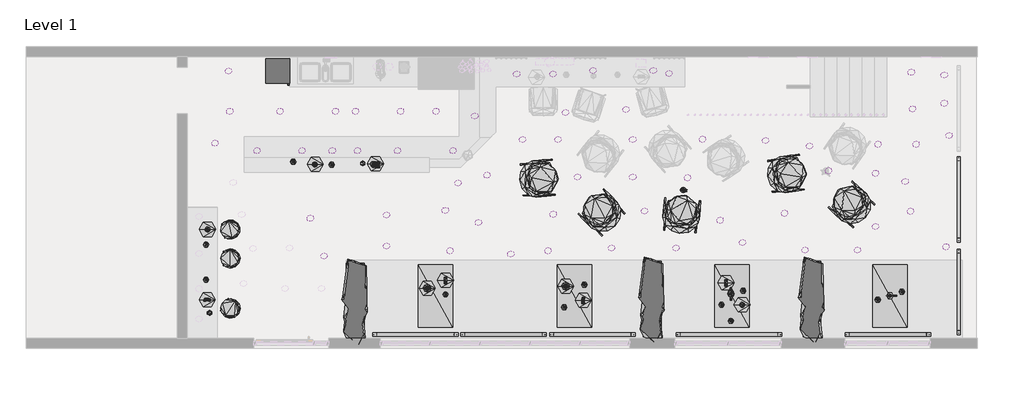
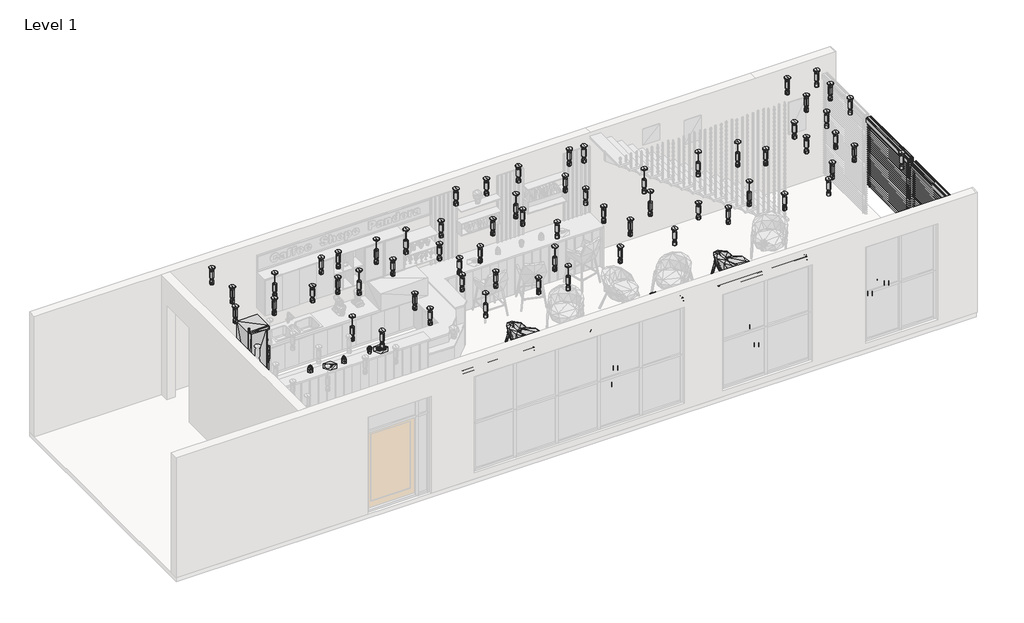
# One storey, part 2 of 12: 64 light fixtures, 54 geographic elements, 7 proxies.
"""IFC4 building model written with IfcOpenShell, lengths in millimetres."""

from ifc_helpers import new_model, si_unit, origin, place, context, project, spatial, transform, mapped, element, save
from components import generic_models_4dfa0e88, generic_models_0d125391, generic_models_69a6ee1e, generic_models_c7dcbf66, generic_models_453052fa, geographic_element_7c6608a7, geographic_element_d1b7c6a5, geographic_element_4494242b, geographic_element_1264376e, geographic_element_9d12d4a3, geographic_element_bb1f53bf, geographic_element_d340176e, enscape_assetdefinition_coffee_maker_03_enscape_4d109c25, enscape_assetdefinition_high_stool_08_enscape_40338ee3, enscape_assetdefinition_lounge_armchair_12_enscape_3d8580c7, enscape_assetdefinition_napkin_folded_enscape_c1d7dbe0, enscape_assetdefinition_plate_flat_enscape_assetdefinition_addf1cdb, enscape_assetdefinition_red_cocktail_enscape_assetdefinition_719ef9fb, enscape_assetdefinition_refrigerator_03_enscape_10d53833, enscape_assetdefinition_side_table_09_enscape_f6d087d9, light_fixture_a07fdb93, light_fixture_9dd68e13

model = new_model("IFC4")

# Units and contexts
model_context = context("Model", 3, world=origin())
ifc_project = project(units=[si_unit("LENGTHUNIT", "METRE", prefix="MILLI")], contexts=[model_context])

# Site, building, storey
site = spatial("IfcSite", under=ifc_project)
building = spatial("IfcBuilding", under=site)
storey = spatial("IfcBuildingStorey", under=building, Name="Level 1", Elevation=0.0)

# Proxies
placement = place(None, origin())
generic_models_shape = generic_models_4dfa0e88(model_context)
generic_models_2_shape = generic_models_0d125391(model_context)
element("IfcBuildingElementProxy", 1, Name="Windows-Blinds Schenker Stores Stores a lamelles Economy EC 70 : Windows-Blinds Schenker Stores Stores a lamelles Economy EC 70", ObjectType="Windows-Blinds Schenker Stores Stores a lamelles Economy EC 70 : Windows-Blinds Schenker Stores Stores a lamelles Economy EC 70", at=placement, inside=storey, context=model_context, shape_type="MappedRepresentation", body=[
    mapped(generic_models_shape, transform((14205.6769044, -2380.239109, 200.0), x_axis=(0.0, 1.0, 0.0), y_axis=(-1.0, 0.0, 0.0), z_axis=(0.0, 0.0, 1.0))),
    mapped(generic_models_2_shape, transform((14205.6769044, -2380.239109, 200.0), x_axis=(0.0, 1.0, 0.0), y_axis=(-1.0, 0.0, 0.0), z_axis=(0.0, 0.0, 1.0))),
])
element("IfcBuildingElementProxy", 2, Name="Windows-Blinds Schenker Stores Stores a lamelles Economy EC 70 : Windows-Blinds Schenker Stores Stores a lamelles Economy EC 70", ObjectType="Windows-Blinds Schenker Stores Stores a lamelles Economy EC 70 : Windows-Blinds Schenker Stores Stores a lamelles Economy EC 70", at=placement, inside=storey, context=model_context, shape_type="MappedRepresentation", body=[
    mapped(generic_models_shape, transform((3450.6769044, -3175.2400684, 200.0), x_axis=(1.0, 0.0, 0.0), y_axis=(0.0, 1.0, 0.0), z_axis=(0.0, 0.0, 1.0))),
    mapped(generic_models_2_shape, transform((3450.6769044, -3175.2400684, 200.0), x_axis=(1.0, 0.0, 0.0), y_axis=(0.0, 1.0, 0.0), z_axis=(0.0, 0.0, 1.0))),
])
element("IfcBuildingElementProxy", 3, Name="Windows-Blinds Schenker Stores Stores a lamelles Economy EC 70 : Windows-Blinds Schenker Stores Stores a lamelles Economy EC 70", ObjectType="Windows-Blinds Schenker Stores Stores a lamelles Economy EC 70 : Windows-Blinds Schenker Stores Stores a lamelles Economy EC 70", at=placement, inside=storey, context=model_context, shape_type="MappedRepresentation", body=[
    mapped(generic_models_shape, transform((6970.6769044, -3175.2400684, 200.0), x_axis=(1.0, 0.0, 0.0), y_axis=(0.0, 1.0, 0.0), z_axis=(0.0, 0.0, 1.0))),
    mapped(generic_models_2_shape, transform((6970.6769044, -3175.2400684, 200.0), x_axis=(1.0, 0.0, 0.0), y_axis=(0.0, 1.0, 0.0), z_axis=(0.0, 0.0, 1.0))),
])
generic_models_3_shape = generic_models_69a6ee1e(model_context)
generic_models_4_shape = generic_models_c7dcbf66(model_context)
element("IfcBuildingElementProxy", 4, Name="Windows-Blinds Schenker Stores Stores a lamelles Economy EC 70 : Windows-Blinds Schenker Stores Stores a lamelles Economy EC 75", ObjectType="Windows-Blinds Schenker Stores Stores a lamelles Economy EC 70 : Windows-Blinds Schenker Stores Stores a lamelles Economy EC 75", at=placement, inside=storey, context=model_context, shape_type="MappedRepresentation", body=[
    mapped(generic_models_3_shape, transform((9690.6769044, -3175.2400684, 200.0), x_axis=(1.0, 0.0, 0.0), y_axis=(0.0, 1.0, 0.0), z_axis=(0.0, 0.0, 1.0))),
    mapped(generic_models_4_shape, transform((9690.6769044, -3175.2400684, 200.0), x_axis=(1.0, 0.0, 0.0), y_axis=(0.0, 1.0, 0.0), z_axis=(0.0, 0.0, 1.0))),
])
generic_models_5_shape = generic_models_453052fa(model_context)
element("IfcBuildingElementProxy", 5, Name="Windows-Blinds Schenker Stores Stores a lamelles Economy EC 70 : Windows-Blinds Schenker Stores Stores a lamelles Economy EC 76", ObjectType="Windows-Blinds Schenker Stores Stores a lamelles Economy EC 70 : Windows-Blinds Schenker Stores Stores a lamelles Economy EC 76", at=placement, inside=storey, context=model_context, shape_type="MappedRepresentation", body=[
    mapped(generic_models_5_shape, transform((14205.6769044, -540.239109, 1000.0), x_axis=(0.0, 1.0, 0.0), y_axis=(-1.0, 0.0, 0.0), z_axis=(0.0, 0.0, 1.0))),
])
element("IfcBuildingElementProxy", 6, Name="Windows-Blinds Schenker Stores Stores a lamelles Economy EC 70 : Windows-Blinds Schenker Stores Stores a lamelles Economy EC 76", ObjectType="Windows-Blinds Schenker Stores Stores a lamelles Economy EC 70 : Windows-Blinds Schenker Stores Stores a lamelles Economy EC 76", at=placement, inside=storey, context=model_context, shape_type="MappedRepresentation", body=[
    mapped(generic_models_5_shape, transform((12850.6769044, -3175.2400684, 1000.0), x_axis=(1.0, 0.0, 0.0), y_axis=(0.0, 1.0, 0.0), z_axis=(0.0, 0.0, 1.0))),
])
element("IfcBuildingElementProxy", 7, Name="Windows-Blinds Schenker Stores Stores a lamelles Economy EC 70 : Windows-Blinds Schenker Stores Stores a lamelles Economy EC 76", ObjectType="Windows-Blinds Schenker Stores Stores a lamelles Economy EC 70 : Windows-Blinds Schenker Stores Stores a lamelles Economy EC 76", at=placement, inside=storey, context=model_context, shape_type="MappedRepresentation", body=[
    mapped(generic_models_5_shape, transform((5205.4769044, -3175.2400684, 1000.0), x_axis=(1.0, 0.0, 0.0), y_axis=(0.0, 1.0, 0.0), z_axis=(0.0, 0.0, 1.0))),
])

# Geographic elements
geographic_element_shape = geographic_element_7c6608a7(model_context)
element("IfcGeographicElement", 8, ObjectType="Enscape AssetDefinition - Strawberry Cake : Enscape AssetDefinition - Strawberry Cake", at=placement, inside=storey, context=model_context, shape_type="MappedRepresentation", body=[
    mapped(geographic_element_shape, transform((3686.5683064, -2309.5885025, 565.0), x_axis=(1.0, 0.0, 0.0), y_axis=(0.0, 1.0, 0.0), z_axis=(0.0, 0.0, 1.0))),
])
element("IfcGeographicElement", 9, ObjectType="Enscape AssetDefinition - Strawberry Cake : Enscape AssetDefinition - Strawberry Cake", at=placement, inside=storey, context=model_context, shape_type="MappedRepresentation", body=[
    mapped(geographic_element_shape, transform((6441.3683064, -2269.5885025, 565.0), x_axis=(1.0, 0.0, 0.0), y_axis=(0.0, 1.0, 0.0), z_axis=(0.0, 0.0, 1.0))),
])
geographic_element_2_shape = geographic_element_d1b7c6a5(model_context)
element("IfcGeographicElement", 10, ObjectType="Enscape AssetDefinition - Teapot : Enscape AssetDefinition - Teapot", at=placement, inside=storey, context=model_context, shape_type="MappedRepresentation", body=[
    mapped(geographic_element_2_shape, transform((9728.4361306, -2420.239109, 550.0), x_axis=(0.0, 1.0, 0.0), y_axis=(-1.0, 0.0, 0.0), z_axis=(0.0, 0.0, 1.0))),
])
geographic_element_3_shape = geographic_element_4494242b(model_context)
element("IfcGeographicElement", 11, ObjectType="Enscape AssetDefinition - Papercup, Big : Enscape AssetDefinition - Papercup, Big", at=placement, inside=storey, context=model_context, shape_type="MappedRepresentation", body=[
    mapped(geographic_element_3_shape, transform((2402.8496284, 176.7839731, 1040.0), x_axis=(1.0, 0.0, 0.0), y_axis=(0.0, 1.0, 0.0), z_axis=(0.0, 0.0, 1.0))),
])
element("IfcGeographicElement", 12, ObjectType="Enscape AssetDefinition - Papercup, Big : Enscape AssetDefinition - Papercup, Big", at=placement, inside=storey, context=model_context, shape_type="MappedRepresentation", body=[
    mapped(geographic_element_3_shape, transform((-644.6394575, -2800.239109, 920.0), x_axis=(1.0, 0.0, 0.0), y_axis=(0.0, 1.0, 0.0), z_axis=(0.0, 0.0, 1.0))),
])
geographic_element_4_shape = geographic_element_1264376e(model_context)
element("IfcGeographicElement", 13, ObjectType="Enscape AssetDefinition - Pastry : Enscape AssetDefinition - Pastry", at=placement, inside=storey, context=model_context, shape_type="MappedRepresentation", body=[
    mapped(geographic_element_4_shape, transform((2630.9318657, 151.2754432, 1055.0), x_axis=(1.0, 0.0, 0.0), y_axis=(0.0, 1.0, 0.0), z_axis=(0.0, 0.0, 1.0))),
])
geographic_element_5_shape = geographic_element_9d12d4a3(model_context)
element("IfcGeographicElement", 14, ObjectType="Enscape AssetDefinition - Pastry 05 : Enscape AssetDefinition - Pastry 05", at=placement, inside=storey, context=model_context, shape_type="MappedRepresentation", body=[
    mapped(geographic_element_5_shape, transform((2711.2279841, 151.2754432, 1055.0), x_axis=(0.0, 1.0, 0.0), y_axis=(-1.0, 0.0, 0.0), z_axis=(0.0, 0.0, 1.0))),
])
element("IfcGeographicElement", 15, ObjectType="Enscape AssetDefinition - Pastry 05 : Enscape AssetDefinition - Pastry 05", at=placement, inside=storey, context=model_context, shape_type="MappedRepresentation", body=[
    mapped(geographic_element_5_shape, transform((-690.3004968, -2539.928149, 935.0), x_axis=(1.0, 0.0, 0.0), y_axis=(0.0, 1.0, 0.0), z_axis=(0.0, 0.0, 1.0))),
])
element("IfcGeographicElement", 16, ObjectType="Enscape AssetDefinition - Pastry 05 : Enscape AssetDefinition - Pastry 05", at=placement, inside=storey, context=model_context, shape_type="MappedRepresentation", body=[
    mapped(geographic_element_5_shape, transform((4050.6769044, -2150.239109, 565.0), x_axis=(0.0, 1.0, 0.0), y_axis=(-1.0, 0.0, 0.0), z_axis=(0.0, 0.0, 1.0))),
])
element("IfcGeographicElement", 17, ObjectType="Enscape AssetDefinition - Pastry 05 : Enscape AssetDefinition - Pastry 05", at=placement, inside=storey, context=model_context, shape_type="MappedRepresentation", body=[
    mapped(geographic_element_5_shape, transform((6790.6769044, -2550.239109, 565.0), x_axis=(0.0, 1.0, 0.0), y_axis=(-1.0, 0.0, 0.0), z_axis=(0.0, 0.0, 1.0))),
])
element("IfcGeographicElement", 18, ObjectType="Enscape AssetDefinition - Pastry 05 : Enscape AssetDefinition - Pastry 05", at=placement, inside=storey, context=model_context, shape_type="MappedRepresentation", body=[
    mapped(geographic_element_5_shape, transform((9630.6769044, -2200.239109, 565.0), x_axis=(0.0, 1.0, 0.0), y_axis=(-1.0, 0.0, 0.0), z_axis=(0.0, 0.0, 1.0))),
])
geographic_element_6_shape = geographic_element_bb1f53bf(model_context)
element("IfcGeographicElement", 19, ObjectType="Enscape AssetDefinition - Pastry 09 : Enscape AssetDefinition - Pastry 09", at=placement, inside=storey, context=model_context, shape_type="MappedRepresentation", body=[
    mapped(geographic_element_6_shape, transform((1447.1300429, 151.2754432, 1055.0), x_axis=(1.0, 0.0, 0.0), y_axis=(0.0, 1.0, 0.0), z_axis=(0.0, 0.0, 1.0))),
])
element("IfcGeographicElement", 20, ObjectType="Enscape AssetDefinition - Pastry 09 : Enscape AssetDefinition - Pastry 09", at=placement, inside=storey, context=model_context, shape_type="MappedRepresentation", body=[
    mapped(geographic_element_6_shape, transform((-684.6394575, -1140.239109, 935.0), x_axis=(1.0, 0.0, 0.0), y_axis=(0.0, 1.0, 0.0), z_axis=(0.0, 0.0, 1.0))),
])
element("IfcGeographicElement", 21, ObjectType="Enscape AssetDefinition - Pastry 09 : Enscape AssetDefinition - Pastry 09", at=placement, inside=storey, context=model_context, shape_type="MappedRepresentation", body=[
    mapped(geographic_element_6_shape, transform((9950.6769044, -2640.239109, 565.0), x_axis=(1.0, 0.0, 0.0), y_axis=(0.0, 1.0, 0.0), z_axis=(0.0, 0.0, 1.0))),
])
geographic_element_7_shape = geographic_element_d340176e(model_context)
element("IfcGeographicElement", 22, ObjectType="Enscape AssetDefinition - Snake Plant : Enscape AssetDefinition - Snake Plant", at=placement, inside=storey, context=model_context, shape_type="MappedRepresentation", body=[
    mapped(geographic_element_7_shape, transform((2253.7993478, -2560.239109, 150.0), x_axis=(1.0, 0.0, 0.0), y_axis=(0.0, 1.0, 0.0), z_axis=(0.0, 0.0, 1.0))),
])
element("IfcGeographicElement", 23, ObjectType="Enscape AssetDefinition - Snake Plant : Enscape AssetDefinition - Snake Plant", at=placement, inside=storey, context=model_context, shape_type="MappedRepresentation", body=[
    mapped(geographic_element_7_shape, transform((8160.6769044, -2520.239109, 150.0), x_axis=(1.0, 0.0, 0.0), y_axis=(0.0, 1.0, 0.0), z_axis=(0.0, 0.0, 1.0))),
])
element("IfcGeographicElement", 24, ObjectType="Enscape AssetDefinition - Snake Plant : Enscape AssetDefinition - Snake Plant", at=placement, inside=storey, context=model_context, shape_type="MappedRepresentation", body=[
    mapped(geographic_element_7_shape, transform((11340.8769044, -2520.239109, 150.0), x_axis=(1.0, 0.0, 0.0), y_axis=(0.0, 1.0, 0.0), z_axis=(0.0, 0.0, 1.0))),
])
enscape_assetdefinition_coffee_maker_03_enscape_shape = enscape_assetdefinition_coffee_maker_03_enscape_4d109c25(model_context)
element("IfcGeographicElement", 25, ObjectType="Enscape AssetDefinition - Coffee Maker 03 : Enscape AssetDefinition - Coffee Maker 03", at=placement, inside=storey, context=model_context, shape_type="MappedRepresentation", body=[
    mapped(enscape_assetdefinition_coffee_maker_03_enscape_shape, transform((12890.6568308, -2460.239109, 550.0), x_axis=(1.0, 0.0, 0.0), y_axis=(0.0, 1.0, 0.0), z_axis=(0.0, 0.0, 1.0))),
])
enscape_assetdefinition_high_stool_08_enscape_shape = enscape_assetdefinition_high_stool_08_enscape_40338ee3(model_context)
element("IfcGeographicElement", 26, ObjectType="Enscape AssetDefinition - High Stool 08 : Enscape AssetDefinition - High Stool 08", at=placement, inside=storey, context=model_context, shape_type="MappedRepresentation", body=[
    mapped(enscape_assetdefinition_high_stool_08_enscape_shape, transform((-229.3230956, -1140.239109, 0.0), x_axis=(0.20791169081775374, -0.9781476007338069, 0.0), y_axis=(0.9781476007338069, 0.20791169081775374, 0.0), z_axis=(0.0, 0.0, 1.0))),
])
element("IfcGeographicElement", 27, ObjectType="Enscape AssetDefinition - High Stool 08 : Enscape AssetDefinition - High Stool 08", at=placement, inside=storey, context=model_context, shape_type="MappedRepresentation", body=[
    mapped(enscape_assetdefinition_high_stool_08_enscape_shape, transform((-229.3230956, -1715.439109, 0.0), x_axis=(0.0, -1.0, 0.0), y_axis=(1.0, 0.0, 0.0), z_axis=(0.0, 0.0, 1.0))),
])
element("IfcGeographicElement", 28, ObjectType="Enscape AssetDefinition - High Stool 08 : Enscape AssetDefinition - High Stool 08", at=placement, inside=storey, context=model_context, shape_type="MappedRepresentation", body=[
    mapped(enscape_assetdefinition_high_stool_08_enscape_shape, transform((-229.3230956, -2710.639109, 0.0), x_axis=(-0.5414909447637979, -0.840706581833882, 0.0), y_axis=(0.840706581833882, -0.5414909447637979, 0.0), z_axis=(0.0, 0.0, 1.0))),
])
enscape_assetdefinition_lounge_armchair_12_enscape_shape = enscape_assetdefinition_lounge_armchair_12_enscape_3d8580c7(model_context)
element("IfcGeographicElement", 29, ObjectType="Enscape AssetDefinition - Lounge Armchair 12 : Enscape AssetDefinition - Lounge Armchair 12", at=placement, inside=storey, context=model_context, shape_type="MappedRepresentation", body=[
    mapped(enscape_assetdefinition_lounge_armchair_12_enscape_shape, transform((10836.6969515, -37.4563957, 0.0), x_axis=(-0.1419699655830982, 0.98987096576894, 0.0), y_axis=(-0.98987096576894, -0.1419699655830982, 0.0), z_axis=(0.0, 0.0, 1.0))),
])
element("IfcGeographicElement", 30, ObjectType="Enscape AssetDefinition - Lounge Armchair 12 : Enscape AssetDefinition - Lounge Armchair 12", at=placement, inside=storey, context=model_context, shape_type="MappedRepresentation", body=[
    mapped(enscape_assetdefinition_lounge_armchair_12_enscape_shape, transform((12128.5337785, -645.7333245, 0.0), x_axis=(-0.6771133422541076, -0.7358787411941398, 0.0), y_axis=(0.7358787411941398, -0.6771133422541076, 0.0), z_axis=(0.0, 0.0, 1.0))),
])
element("IfcGeographicElement", 31, ObjectType="Enscape AssetDefinition - Lounge Armchair 12 : Enscape AssetDefinition - Lounge Armchair 12", at=placement, inside=storey, context=model_context, shape_type="MappedRepresentation", body=[
    mapped(enscape_assetdefinition_lounge_armchair_12_enscape_shape, transform((8742.1531575, -842.5742269, 0.0), x_axis=(-0.996436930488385, 0.08434123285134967, 0.0), y_axis=(-0.08434123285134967, -0.996436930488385, 0.0), z_axis=(0.0, 0.0, 1.0))),
])
element("IfcGeographicElement", 32, ObjectType="Enscape AssetDefinition - Lounge Armchair 12 : Enscape AssetDefinition - Lounge Armchair 12", at=placement, inside=storey, context=model_context, shape_type="MappedRepresentation", body=[
    mapped(enscape_assetdefinition_lounge_armchair_12_enscape_shape, transform((5899.2288006, -126.543586, 0.0), x_axis=(-0.08996955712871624, 0.9959445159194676, 0.0), y_axis=(-0.9959445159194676, -0.08996955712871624, 0.0), z_axis=(0.0, 0.0, 1.0))),
])
element("IfcGeographicElement", 33, ObjectType="Enscape AssetDefinition - Lounge Armchair 12 : Enscape AssetDefinition - Lounge Armchair 12", at=placement, inside=storey, context=model_context, shape_type="MappedRepresentation", body=[
    mapped(enscape_assetdefinition_lounge_armchair_12_enscape_shape, transform((7157.4604554, -801.5964081, 0.0), x_axis=(-0.7146982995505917, -0.6994328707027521, 0.0), y_axis=(0.6994328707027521, -0.7146982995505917, 0.0), z_axis=(0.0, 0.0, 1.0))),
])
enscape_assetdefinition_napkin_folded_enscape_shape = enscape_assetdefinition_napkin_folded_enscape_c1d7dbe0(model_context)
element("IfcGeographicElement", 34, ObjectType="Enscape AssetDefinition - Napkin, Folded : Enscape AssetDefinition - Napkin, Folded", at=placement, inside=storey, context=model_context, shape_type="MappedRepresentation", body=[
    mapped(enscape_assetdefinition_napkin_folded_enscape_shape, transform((1783.8426371, 151.2754432, 1040.0), x_axis=(1.0, 0.0, 0.0), y_axis=(0.0, 1.0, 0.0), z_axis=(0.0, 0.0, 1.0))),
])
element("IfcGeographicElement", 35, ObjectType="Enscape AssetDefinition - Napkin, Folded : Enscape AssetDefinition - Napkin, Folded", at=placement, inside=storey, context=model_context, shape_type="MappedRepresentation", body=[
    mapped(enscape_assetdefinition_napkin_folded_enscape_shape, transform((-714.6394575, -2140.239109, 920.0), x_axis=(1.0, 0.0, 0.0), y_axis=(0.0, 1.0, 0.0), z_axis=(0.0, 0.0, 1.0))),
])
element("IfcGeographicElement", 36, ObjectType="Enscape AssetDefinition - Napkin, Folded : Enscape AssetDefinition - Napkin, Folded", at=placement, inside=storey, context=model_context, shape_type="MappedRepresentation", body=[
    mapped(enscape_assetdefinition_napkin_folded_enscape_shape, transform((-714.6394575, -1440.239109, 920.0), x_axis=(1.0, 0.0, 0.0), y_axis=(0.0, 1.0, 0.0), z_axis=(0.0, 0.0, 1.0))),
])
element("IfcGeographicElement", 37, ObjectType="Enscape AssetDefinition - Napkin, Folded : Enscape AssetDefinition - Napkin, Folded", at=placement, inside=storey, context=model_context, shape_type="MappedRepresentation", body=[
    mapped(enscape_assetdefinition_napkin_folded_enscape_shape, transform((1019.1671666, 206.7796388, 1040.0), x_axis=(1.0, 0.0, 0.0), y_axis=(0.0, 1.0, 0.0), z_axis=(0.0, 0.0, 1.0))),
])
element("IfcGeographicElement", 38, ObjectType="Enscape AssetDefinition - Napkin, Folded : Enscape AssetDefinition - Napkin, Folded", at=placement, inside=storey, context=model_context, shape_type="MappedRepresentation", body=[
    mapped(enscape_assetdefinition_napkin_folded_enscape_shape, transform((4050.6769044, -2433.010066, 550.0), x_axis=(1.0, 0.0, 0.0), y_axis=(0.0, 1.0, 0.0), z_axis=(0.0, 0.0, 1.0))),
])
element("IfcGeographicElement", 39, ObjectType="Enscape AssetDefinition - Napkin, Folded : Enscape AssetDefinition - Napkin, Folded", at=placement, inside=storey, context=model_context, shape_type="MappedRepresentation", body=[
    mapped(enscape_assetdefinition_napkin_folded_enscape_shape, transform((6410.4358859, -2687.388316, 550.0), x_axis=(1.0, 0.0, 0.0), y_axis=(0.0, 1.0, 0.0), z_axis=(0.0, 0.0, 1.0))),
])
element("IfcGeographicElement", 40, ObjectType="Enscape AssetDefinition - Napkin, Folded : Enscape AssetDefinition - Napkin, Folded", at=placement, inside=storey, context=model_context, shape_type="MappedRepresentation", body=[
    mapped(enscape_assetdefinition_napkin_folded_enscape_shape, transform((6812.684888, -2242.0859102, 550.0), x_axis=(1.0, 0.0, 0.0), y_axis=(0.0, 1.0, 0.0), z_axis=(0.0, 0.0, 1.0))),
])
element("IfcGeographicElement", 41, ObjectType="Enscape AssetDefinition - Napkin, Folded : Enscape AssetDefinition - Napkin, Folded", at=placement, inside=storey, context=model_context, shape_type="MappedRepresentation", body=[
    mapped(enscape_assetdefinition_napkin_folded_enscape_shape, transform((9728.4361306, -2960.239109, 550.0), x_axis=(1.0, 0.0, 0.0), y_axis=(0.0, 1.0, 0.0), z_axis=(0.0, 0.0, 1.0))),
])
element("IfcGeographicElement", 42, ObjectType="Enscape AssetDefinition - Napkin, Folded : Enscape AssetDefinition - Napkin, Folded", at=placement, inside=storey, context=model_context, shape_type="MappedRepresentation", body=[
    mapped(enscape_assetdefinition_napkin_folded_enscape_shape, transform((9970.6769044, -2360.239109, 550.0), x_axis=(1.0, 0.0, 0.0), y_axis=(0.0, 1.0, 0.0), z_axis=(0.0, 0.0, 1.0))),
])
element("IfcGeographicElement", 43, ObjectType="Enscape AssetDefinition - Napkin, Folded : Enscape AssetDefinition - Napkin, Folded", at=placement, inside=storey, context=model_context, shape_type="MappedRepresentation", body=[
    mapped(enscape_assetdefinition_napkin_folded_enscape_shape, transform((9540.5467655, -2640.239109, 550.0), x_axis=(1.0, 0.0, 0.0), y_axis=(0.0, 1.0, 0.0), z_axis=(0.0, 0.0, 1.0))),
])
element("IfcGeographicElement", 44, ObjectType="Enscape AssetDefinition - Napkin, Folded : Enscape AssetDefinition - Napkin, Folded", at=placement, inside=storey, context=model_context, shape_type="MappedRepresentation", body=[
    mapped(enscape_assetdefinition_napkin_folded_enscape_shape, transform((12650.6769044, -2540.239109, 550.0), x_axis=(1.0, 0.0, 0.0), y_axis=(0.0, 1.0, 0.0), z_axis=(0.0, 0.0, 1.0))),
])
element("IfcGeographicElement", 45, ObjectType="Enscape AssetDefinition - Napkin, Folded : Enscape AssetDefinition - Napkin, Folded", at=placement, inside=storey, context=model_context, shape_type="MappedRepresentation", body=[
    mapped(enscape_assetdefinition_napkin_folded_enscape_shape, transform((13130.6769044, -2380.239109, 550.0), x_axis=(1.0, 0.0, 0.0), y_axis=(0.0, 1.0, 0.0), z_axis=(0.0, 0.0, 1.0))),
])
enscape_assetdefinition_plate_flat_enscape_assetdefinition_shape = enscape_assetdefinition_plate_flat_enscape_assetdefinition_addf1cdb(model_context)
element("IfcGeographicElement", 46, ObjectType="Enscape AssetDefinition - Plate Flat : Enscape AssetDefinition - Plate Flat", at=placement, inside=storey, context=model_context, shape_type="MappedRepresentation", body=[
    mapped(enscape_assetdefinition_plate_flat_enscape_assetdefinition_shape, transform((9950.6769044, -2640.239109, 550.0), x_axis=(1.0, 0.0, 0.0), y_axis=(0.0, 1.0, 0.0), z_axis=(0.0, 0.0, 1.0))),
])
element("IfcGeographicElement", 47, ObjectType="Enscape AssetDefinition - Plate Flat : Enscape AssetDefinition - Plate Flat", at=placement, inside=storey, context=model_context, shape_type="MappedRepresentation", body=[
    mapped(enscape_assetdefinition_plate_flat_enscape_assetdefinition_shape, transform((9630.6769044, -2200.239109, 550.0), x_axis=(1.0, 0.0, 0.0), y_axis=(0.0, 1.0, 0.0), z_axis=(0.0, 0.0, 1.0))),
])
element("IfcGeographicElement", 48, ObjectType="Enscape AssetDefinition - Plate Flat : Enscape AssetDefinition - Plate Flat", at=placement, inside=storey, context=model_context, shape_type="MappedRepresentation", body=[
    mapped(enscape_assetdefinition_plate_flat_enscape_assetdefinition_shape, transform((6790.6769044, -2550.239109, 550.0), x_axis=(1.0, 0.0, 0.0), y_axis=(0.0, 1.0, 0.0), z_axis=(0.0, 0.0, 1.0))),
])
element("IfcGeographicElement", 49, ObjectType="Enscape AssetDefinition - Plate Flat : Enscape AssetDefinition - Plate Flat", at=placement, inside=storey, context=model_context, shape_type="MappedRepresentation", body=[
    mapped(enscape_assetdefinition_plate_flat_enscape_assetdefinition_shape, transform((6441.3683064, -2269.5885025, 550.0), x_axis=(1.0, 0.0, 0.0), y_axis=(0.0, 1.0, 0.0), z_axis=(0.0, 0.0, 1.0))),
])
element("IfcGeographicElement", 50, ObjectType="Enscape AssetDefinition - Plate Flat : Enscape AssetDefinition - Plate Flat", at=placement, inside=storey, context=model_context, shape_type="MappedRepresentation", body=[
    mapped(enscape_assetdefinition_plate_flat_enscape_assetdefinition_shape, transform((3686.5683064, -2309.5885025, 550.0), x_axis=(1.0, 0.0, 0.0), y_axis=(0.0, 1.0, 0.0), z_axis=(0.0, 0.0, 1.0))),
])
element("IfcGeographicElement", 51, ObjectType="Enscape AssetDefinition - Plate Flat : Enscape AssetDefinition - Plate Flat", at=placement, inside=storey, context=model_context, shape_type="MappedRepresentation", body=[
    mapped(enscape_assetdefinition_plate_flat_enscape_assetdefinition_shape, transform((4050.6769044, -2150.239109, 550.0), x_axis=(1.0, 0.0, 0.0), y_axis=(0.0, 1.0, 0.0), z_axis=(0.0, 0.0, 1.0))),
])
element("IfcGeographicElement", 52, ObjectType="Enscape AssetDefinition - Plate Flat : Enscape AssetDefinition - Plate Flat", at=placement, inside=storey, context=model_context, shape_type="MappedRepresentation", body=[
    mapped(enscape_assetdefinition_plate_flat_enscape_assetdefinition_shape, transform((-684.6394575, -1140.239109, 920.0), x_axis=(1.0, 0.0, 0.0), y_axis=(0.0, 1.0, 0.0), z_axis=(0.0, 0.0, 1.0))),
])
element("IfcGeographicElement", 53, ObjectType="Enscape AssetDefinition - Plate Flat : Enscape AssetDefinition - Plate Flat", at=placement, inside=storey, context=model_context, shape_type="MappedRepresentation", body=[
    mapped(enscape_assetdefinition_plate_flat_enscape_assetdefinition_shape, transform((-690.3004968, -2539.928149, 920.0), x_axis=(1.0, 0.0, 0.0), y_axis=(0.0, 1.0, 0.0), z_axis=(0.0, 0.0, 1.0))),
])
element("IfcGeographicElement", 54, ObjectType="Enscape AssetDefinition - Plate Flat : Enscape AssetDefinition - Plate Flat", at=placement, inside=storey, context=model_context, shape_type="MappedRepresentation", body=[
    mapped(enscape_assetdefinition_plate_flat_enscape_assetdefinition_shape, transform((1457.809043, 158.3684435, 1040.0), x_axis=(1.0, 0.0, 0.0), y_axis=(0.0, 1.0, 0.0), z_axis=(0.0, 0.0, 1.0))),
])
element("IfcGeographicElement", 55, ObjectType="Enscape AssetDefinition - Plate Flat : Enscape AssetDefinition - Plate Flat", at=placement, inside=storey, context=model_context, shape_type="MappedRepresentation", body=[
    mapped(enscape_assetdefinition_plate_flat_enscape_assetdefinition_shape, transform((2657.1308649, 164.3514431, 1040.0), x_axis=(1.0, 0.0, 0.0), y_axis=(0.0, 1.0, 0.0), z_axis=(0.0, 0.0, 1.0))),
])
enscape_assetdefinition_red_cocktail_enscape_assetdefinition_shape = enscape_assetdefinition_red_cocktail_enscape_assetdefinition_719ef9fb(model_context)
element("IfcGeographicElement", 56, ObjectType="Enscape AssetDefinition - Red Cocktail : Enscape AssetDefinition - Red Cocktail", at=placement, inside=storey, context=model_context, shape_type="MappedRepresentation", body=[
    mapped(enscape_assetdefinition_red_cocktail_enscape_assetdefinition_shape, transform((8778.9854705, -354.3058295, 485.2), x_axis=(1.0, 0.0, 0.0), y_axis=(0.0, 1.0, 0.0), z_axis=(0.0, 0.0, 1.0))),
])
enscape_assetdefinition_refrigerator_03_enscape_shape = enscape_assetdefinition_refrigerator_03_enscape_10d53833(model_context)
element("IfcGeographicElement", 57, ObjectType="Enscape AssetDefinition - Refrigerator 03 : Enscape AssetDefinition - Refrigerator 03", at=placement, inside=storey, context=model_context, shape_type="MappedRepresentation", body=[
    mapped(enscape_assetdefinition_refrigerator_03_enscape_shape, transform((710.6959087, 2015.5818955, 0.0), x_axis=(-1.0, 0.0, 0.0), y_axis=(0.0, -1.0, 0.0), z_axis=(0.0, 0.0, 1.0))),
])
enscape_assetdefinition_side_table_09_enscape_shape = enscape_assetdefinition_side_table_09_enscape_f6d087d9(model_context)
element("IfcGeographicElement", 58, ObjectType="Enscape AssetDefinition - Side Table 09 : Enscape AssetDefinition - Side Table 09", at=placement, inside=storey, context=model_context, shape_type="MappedRepresentation", body=[
    mapped(enscape_assetdefinition_side_table_09_enscape_shape, transform((3850.6769044, -2460.239109, 150.0), x_axis=(0.0, 1.0, 0.0), y_axis=(-1.0, 0.0, 0.0), z_axis=(0.0, 0.0, 1.0))),
])
element("IfcGeographicElement", 59, ObjectType="Enscape AssetDefinition - Side Table 09 : Enscape AssetDefinition - Side Table 09", at=placement, inside=storey, context=model_context, shape_type="MappedRepresentation", body=[
    mapped(enscape_assetdefinition_side_table_09_enscape_shape, transform((9750.6769044, -2460.239109, 150.0), x_axis=(0.0, 1.0, 0.0), y_axis=(-1.0, 0.0, 0.0), z_axis=(0.0, 0.0, 1.0))),
])
element("IfcGeographicElement", 60, ObjectType="Enscape AssetDefinition - Side Table 09 : Enscape AssetDefinition - Side Table 09", at=placement, inside=storey, context=model_context, shape_type="MappedRepresentation", body=[
    mapped(enscape_assetdefinition_side_table_09_enscape_shape, transform((12890.6769044, -2460.239109, 150.0), x_axis=(0.0, 1.0, 0.0), y_axis=(-1.0, 0.0, 0.0), z_axis=(0.0, 0.0, 1.0))),
])
element("IfcGeographicElement", 61, ObjectType="Enscape AssetDefinition - Side Table 09 : Enscape AssetDefinition - Side Table 09", at=placement, inside=storey, context=model_context, shape_type="MappedRepresentation", body=[
    mapped(enscape_assetdefinition_side_table_09_enscape_shape, transform((6615.4769044, -2460.239109, 150.0), x_axis=(0.0, 1.0, 0.0), y_axis=(-1.0, 0.0, 0.0), z_axis=(0.0, 0.0, 1.0))),
])

# Light fixtures
light_fixture_shape = light_fixture_a07fdb93(model_context)
element("IfcLightFixture", 62, ObjectType="Lighting_Pendants_Intra-Lighting_Zoe-Z3 : 600lm 11W 830 FO", at=placement, inside=storey, context=model_context, shape_type="MappedRepresentation", body=[
    mapped(light_fixture_shape, transform((5349.1377688, -1628.5631041, 3000.0), x_axis=(0.0, -1.0, 0.0), y_axis=(-1.0, 0.0, 0.0), z_axis=(0.0, 0.0, -1.0))),
])
element("IfcLightFixture", 63, ObjectType="Lighting_Pendants_Intra-Lighting_Zoe-Z3 : 600lm 11W 830 FO", at=placement, inside=storey, context=model_context, shape_type="MappedRepresentation", body=[
    mapped(light_fixture_shape, transform((4702.8050577, -998.3824295, 3000.0), x_axis=(0.0, -1.0, 0.0), y_axis=(-1.0, 0.0, 0.0), z_axis=(0.0, 0.0, -1.0))),
])
element("IfcLightFixture", 64, ObjectType="Lighting_Pendants_Intra-Lighting_Zoe-Z3 : 600lm 11W 830 FO", at=placement, inside=storey, context=model_context, shape_type="MappedRepresentation", body=[
    mapped(light_fixture_shape, transform((4045.0202231, -758.9683291, 3000.0), x_axis=(0.0, -1.0, 0.0), y_axis=(-1.0, 0.0, 0.0), z_axis=(0.0, 0.0, -1.0))),
])
element("IfcLightFixture", 65, ObjectType="Lighting_Pendants_Intra-Lighting_Zoe-Z3 : 600lm 11W 830 FO", at=placement, inside=storey, context=model_context, shape_type="MappedRepresentation", body=[
    mapped(light_fixture_shape, transform((4298.5911802, -215.1836569, 3000.0), x_axis=(0.0, -1.0, 0.0), y_axis=(-1.0, 0.0, 0.0), z_axis=(0.0, 0.0, -1.0))),
])
element("IfcLightFixture", 66, ObjectType="Lighting_Pendants_Intra-Lighting_Zoe-Z3 : 600lm 11W 830 FO", at=placement, inside=storey, context=model_context, shape_type="MappedRepresentation", body=[
    mapped(light_fixture_shape, transform((4878.1466759, -59.8922299, 3000.0), x_axis=(0.0, -1.0, 0.0), y_axis=(-1.0, 0.0, 0.0), z_axis=(0.0, 0.0, -1.0))),
])
element("IfcLightFixture", 67, ObjectType="Lighting_Pendants_Intra-Lighting_Zoe-Z3 : 600lm 11W 830 FO", at=placement, inside=storey, context=model_context, shape_type="MappedRepresentation", body=[
    mapped(light_fixture_shape, transform((5585.2534571, 647.2145513, 3000.0), x_axis=(0.0, -1.0, 0.0), y_axis=(-1.0, 0.0, 0.0), z_axis=(0.0, 0.0, -1.0))),
])
element("IfcLightFixture", 68, ObjectType="Lighting_Pendants_Intra-Lighting_Zoe-Z3 : 600lm 11W 830 FO", at=placement, inside=storey, context=model_context, shape_type="MappedRepresentation", body=[
    mapped(light_fixture_shape, transform((6285.2534571, 647.2145513, 3000.0), x_axis=(0.0, -1.0, 0.0), y_axis=(-1.0, 0.0, 0.0), z_axis=(0.0, 0.0, -1.0))),
])
element("IfcLightFixture", 69, ObjectType="Lighting_Pendants_Intra-Lighting_Zoe-Z3 : 600lm 11W 830 FO", at=placement, inside=storey, context=model_context, shape_type="MappedRepresentation", body=[
    mapped(light_fixture_shape, transform((4196.7574768, 427.7047785, 3000.0), x_axis=(0.0, -1.0, 0.0), y_axis=(-1.0, 0.0, 0.0), z_axis=(0.0, 0.0, -1.0))),
])
element("IfcLightFixture", 70, ObjectType="Lighting_Pendants_Intra-Lighting_Zoe-Z3 : 600lm 11W 830 FO", at=placement, inside=storey, context=model_context, shape_type="MappedRepresentation", body=[
    mapped(light_fixture_shape, transform((3096.7574768, 427.7047785, 3000.0), x_axis=(0.0, -1.0, 0.0), y_axis=(-1.0, 0.0, 0.0), z_axis=(0.0, 0.0, -1.0))),
])
element("IfcLightFixture", 71, ObjectType="Lighting_Pendants_Intra-Lighting_Zoe-Z3 : 600lm 11W 830 FO", at=placement, inside=storey, context=model_context, shape_type="MappedRepresentation", body=[
    mapped(light_fixture_shape, transform((1796.7574768, 427.7047785, 3000.0), x_axis=(0.0, -1.0, 0.0), y_axis=(-1.0, 0.0, 0.0), z_axis=(0.0, 0.0, -1.0))),
])
element("IfcLightFixture", 72, ObjectType="Lighting_Pendants_Intra-Lighting_Zoe-Z3 : 600lm 11W 830 FO", at=placement, inside=storey, context=model_context, shape_type="MappedRepresentation", body=[
    mapped(light_fixture_shape, transform((1196.7574768, 427.7047785, 3000.0), x_axis=(0.0, -1.0, 0.0), y_axis=(-1.0, 0.0, 0.0), z_axis=(0.0, 0.0, -1.0))),
])
element("IfcLightFixture", 73, ObjectType="Lighting_Pendants_Intra-Lighting_Zoe-Z3 : 600lm 11W 830 FO", at=placement, inside=storey, context=model_context, shape_type="MappedRepresentation", body=[
    mapped(light_fixture_shape, transform((296.7574768, 427.7047785, 3000.0), x_axis=(0.0, -1.0, 0.0), y_axis=(-1.0, 0.0, 0.0), z_axis=(0.0, 0.0, -1.0))),
])
element("IfcLightFixture", 74, ObjectType="Lighting_Pendants_Intra-Lighting_Zoe-Z3 : 600lm 11W 830 FO", at=placement, inside=storey, context=model_context, shape_type="MappedRepresentation", body=[
    mapped(light_fixture_shape, transform((4632.0511155, 1117.9666579, 3000.0), x_axis=(0.0, -1.0, 0.0), y_axis=(-1.0, 0.0, 0.0), z_axis=(0.0, 0.0, -1.0))),
])
element("IfcLightFixture", 75, ObjectType="Lighting_Pendants_Intra-Lighting_Zoe-Z3 : 600lm 11W 830 FO", at=placement, inside=storey, context=model_context, shape_type="MappedRepresentation", body=[
    mapped(light_fixture_shape, transform((5466.4371173, 1952.3526597, 3000.0), x_axis=(0.0, -1.0, 0.0), y_axis=(-1.0, 0.0, 0.0), z_axis=(0.0, 0.0, -1.0))),
])
element("IfcLightFixture", 76, ObjectType="Lighting_Pendants_Intra-Lighting_Zoe-Z3 : 600lm 11W 830 FO", at=placement, inside=storey, context=model_context, shape_type="MappedRepresentation", body=[
    mapped(light_fixture_shape, transform((6186.4371173, 1952.3526597, 3000.0), x_axis=(0.0, -1.0, 0.0), y_axis=(-1.0, 0.0, 0.0), z_axis=(0.0, 0.0, -1.0))),
])
element("IfcLightFixture", 77, ObjectType="Lighting_Pendants_Intra-Lighting_Zoe-Z3 : 600lm 11W 830 FO", at=placement, inside=storey, context=model_context, shape_type="MappedRepresentation", body=[
    mapped(light_fixture_shape, transform((6983.3928757, 2022.0772539, 3000.0), x_axis=(0.0, -1.0, 0.0), y_axis=(-1.0, 0.0, 0.0), z_axis=(0.0, 0.0, -1.0))),
])
element("IfcLightFixture", 78, ObjectType="Lighting_Pendants_Intra-Lighting_Zoe-Z3 : 600lm 11W 830 FO", at=placement, inside=storey, context=model_context, shape_type="MappedRepresentation", body=[
    mapped(light_fixture_shape, transform((8183.3928757, 2022.0772539, 3000.0), x_axis=(0.0, -1.0, 0.0), y_axis=(-1.0, 0.0, 0.0), z_axis=(0.0, 0.0, -1.0))),
])
element("IfcLightFixture", 79, ObjectType="Lighting_Pendants_Intra-Lighting_Zoe-Z3 : 600lm 11W 830 FO", at=placement, inside=storey, context=model_context, shape_type="MappedRepresentation", body=[
    mapped(light_fixture_shape, transform((8498.5313567, 1966.509837, 3000.0), x_axis=(0.0, -1.0, 0.0), y_axis=(-1.0, 0.0, 0.0), z_axis=(0.0, 0.0, -1.0))),
])
element("IfcLightFixture", 80, ObjectType="Lighting_Pendants_Intra-Lighting_Zoe-Z3 : 600lm 11W 830 FO", at=placement, inside=storey, context=model_context, shape_type="MappedRepresentation", body=[
    mapped(light_fixture_shape, transform((7640.5615804, 1246.5877142, 3000.0), x_axis=(0.0, -1.0, 0.0), y_axis=(-1.0, 0.0, 0.0), z_axis=(0.0, 0.0, -1.0))),
])
element("IfcLightFixture", 81, ObjectType="Lighting_Pendants_Intra-Lighting_Zoe-Z3 : 600lm 11W 830 FO", at=placement, inside=storey, context=model_context, shape_type="MappedRepresentation", body=[
    mapped(light_fixture_shape, transform((7775.0885669, 647.1625692, 3000.0), x_axis=(0.0, -1.0, 0.0), y_axis=(-1.0, 0.0, 0.0), z_axis=(0.0, 0.0, -1.0))),
])
element("IfcLightFixture", 82, ObjectType="Lighting_Pendants_Intra-Lighting_Zoe-Z3 : 600lm 11W 830 FO", at=placement, inside=storey, context=model_context, shape_type="MappedRepresentation", body=[
    mapped(light_fixture_shape, transform((7775.0885669, -92.8374308, 3000.0), x_axis=(0.0, -1.0, 0.0), y_axis=(-1.0, 0.0, 0.0), z_axis=(0.0, 0.0, -1.0))),
])
element("IfcLightFixture", 83, ObjectType="Lighting_Pendants_Intra-Lighting_Zoe-Z3 : 600lm 11W 830 FO", at=placement, inside=storey, context=model_context, shape_type="MappedRepresentation", body=[
    mapped(light_fixture_shape, transform((6675.0885669, -92.8374308, 3000.0), x_axis=(0.0, -1.0, 0.0), y_axis=(-1.0, 0.0, 0.0), z_axis=(0.0, 0.0, -1.0))),
])
element("IfcLightFixture", 84, ObjectType="Lighting_Pendants_Intra-Lighting_Zoe-Z3 : 600lm 11W 830 FO", at=placement, inside=storey, context=model_context, shape_type="MappedRepresentation", body=[
    mapped(light_fixture_shape, transform((8011.5983532, -773.8231804, 3000.0), x_axis=(0.0, -1.0, 0.0), y_axis=(-1.0, 0.0, 0.0), z_axis=(0.0, 0.0, -1.0))),
])
element("IfcLightFixture", 85, ObjectType="Lighting_Pendants_Intra-Lighting_Zoe-Z3 : 600lm 11W 830 FO", at=placement, inside=storey, context=model_context, shape_type="MappedRepresentation", body=[
    mapped(light_fixture_shape, transform((7353.1810891, -1507.3402644, 3000.0), x_axis=(0.0, -1.0, 0.0), y_axis=(-1.0, 0.0, 0.0), z_axis=(0.0, 0.0, -1.0))),
])
element("IfcLightFixture", 86, ObjectType="Lighting_Pendants_Intra-Lighting_Zoe-Z3 : 600lm 11W 830 FO", at=placement, inside=storey, context=model_context, shape_type="MappedRepresentation", body=[
    mapped(light_fixture_shape, transform((8633.1810891, -1507.3402644, 3000.0), x_axis=(0.0, -1.0, 0.0), y_axis=(-1.0, 0.0, 0.0), z_axis=(0.0, 0.0, -1.0))),
])
element("IfcLightFixture", 87, ObjectType="Lighting_Pendants_Intra-Lighting_Zoe-Z3 : 600lm 11W 830 FO", at=placement, inside=storey, context=model_context, shape_type="MappedRepresentation", body=[
    mapped(light_fixture_shape, transform((9515.1511091, -956.2242296, 3000.0), x_axis=(0.0, -1.0, 0.0), y_axis=(-1.0, 0.0, 0.0), z_axis=(0.0, 0.0, -1.0))),
])
element("IfcLightFixture", 88, ObjectType="Lighting_Pendants_Intra-Lighting_Zoe-Z3 : 600lm 11W 830 FO", at=placement, inside=storey, context=model_context, shape_type="MappedRepresentation", body=[
    mapped(light_fixture_shape, transform((9961.0552831, -1402.1284036, 3000.0), x_axis=(0.0, -1.0, 0.0), y_axis=(-1.0, 0.0, 0.0), z_axis=(0.0, 0.0, -1.0))),
])
element("IfcLightFixture", 89, ObjectType="Lighting_Pendants_Intra-Lighting_Zoe-Z3 : 600lm 11W 830 FO", at=placement, inside=storey, context=model_context, shape_type="MappedRepresentation", body=[
    mapped(light_fixture_shape, transform((11203.8304493, -1551.7609926, 3000.0), x_axis=(0.0, -1.0, 0.0), y_axis=(-1.0, 0.0, 0.0), z_axis=(0.0, 0.0, -1.0))),
])
element("IfcLightFixture", 90, ObjectType="Lighting_Pendants_Intra-Lighting_Zoe-Z3 : 600lm 11W 830 FO", at=placement, inside=storey, context=model_context, shape_type="MappedRepresentation", body=[
    mapped(light_fixture_shape, transform((12243.8304493, -1551.7609926, 3000.0), x_axis=(0.0, -1.0, 0.0), y_axis=(-1.0, 0.0, 0.0), z_axis=(0.0, 0.0, -1.0))),
])
element("IfcLightFixture", 91, ObjectType="Lighting_Pendants_Intra-Lighting_Zoe-Z3 : 600lm 11W 830 FO", at=placement, inside=storey, context=model_context, shape_type="MappedRepresentation", body=[
    mapped(light_fixture_shape, transform((11671.1237545, 27.6081985, 3000.0), x_axis=(0.0, -1.0, 0.0), y_axis=(-1.0, 0.0, 0.0), z_axis=(0.0, 0.0, -1.0))),
])
element("IfcLightFixture", 92, ObjectType="Lighting_Pendants_Intra-Lighting_Zoe-Z3 : 600lm 11W 830 FO", at=placement, inside=storey, context=model_context, shape_type="MappedRepresentation", body=[
    mapped(light_fixture_shape, transform((13196.1365804, -186.718377, 3000.0), x_axis=(0.0, -1.0, 0.0), y_axis=(-1.0, 0.0, 0.0), z_axis=(0.0, 0.0, -1.0))),
])
element("IfcLightFixture", 93, ObjectType="Lighting_Pendants_Intra-Lighting_Zoe-Z3 : 600lm 11W 830 FO", at=placement, inside=storey, context=model_context, shape_type="MappedRepresentation", body=[
    mapped(light_fixture_shape, transform((13300.325487, -777.6030288, 3000.0), x_axis=(0.0, -1.0, 0.0), y_axis=(-1.0, 0.0, 0.0), z_axis=(0.0, 0.0, -1.0))),
])
element("IfcLightFixture", 94, ObjectType="Lighting_Pendants_Intra-Lighting_Zoe-Z3 : 600lm 11W 830 FO", at=placement, inside=storey, context=model_context, shape_type="MappedRepresentation", body=[
    mapped(light_fixture_shape, transform((14007.4322681, -1484.70981, 3000.0), x_axis=(0.0, -1.0, 0.0), y_axis=(-1.0, 0.0, 0.0), z_axis=(0.0, 0.0, -1.0))),
])
element("IfcLightFixture", 95, ObjectType="Lighting_Pendants_Intra-Lighting_Zoe-Z3 : 600lm 11W 830 FO", at=placement, inside=storey, context=model_context, shape_type="MappedRepresentation", body=[
    mapped(light_fixture_shape, transform((12603.9901921, -1082.2792705, 3000.0), x_axis=(0.0, -1.0, 0.0), y_axis=(-1.0, 0.0, 0.0), z_axis=(0.0, 0.0, -1.0))),
])
element("IfcLightFixture", 96, ObjectType="Lighting_Pendants_Intra-Lighting_Zoe-Z3 : 600lm 11W 830 FO", at=placement, inside=storey, context=model_context, shape_type="MappedRepresentation", body=[
    mapped(light_fixture_shape, transform((12603.9901921, -22.2792705, 3000.0), x_axis=(0.0, -1.0, 0.0), y_axis=(-1.0, 0.0, 0.0), z_axis=(0.0, 0.0, -1.0))),
])
element("IfcLightFixture", 97, ObjectType="Lighting_Pendants_Intra-Lighting_Zoe-Z3 : 600lm 11W 830 FO", at=placement, inside=storey, context=model_context, shape_type="MappedRepresentation", body=[
    mapped(light_fixture_shape, transform((12654.5405229, 555.5136544, 3000.0), x_axis=(0.0, -1.0, 0.0), y_axis=(-1.0, 0.0, 0.0), z_axis=(0.0, 0.0, -1.0))),
])
element("IfcLightFixture", 98, ObjectType="Lighting_Pendants_Intra-Lighting_Zoe-Z3 : 600lm 11W 830 FO", at=placement, inside=storey, context=model_context, shape_type="MappedRepresentation", body=[
    mapped(light_fixture_shape, transform((13414.5405229, 555.5136544, 3000.0), x_axis=(0.0, -1.0, 0.0), y_axis=(-1.0, 0.0, 0.0), z_axis=(0.0, 0.0, -1.0))),
])
element("IfcLightFixture", 99, ObjectType="Lighting_Pendants_Intra-Lighting_Zoe-Z3 : 600lm 11W 830 FO", at=placement, inside=storey, context=model_context, shape_type="MappedRepresentation", body=[
    mapped(light_fixture_shape, transform((14071.3700847, 731.5106051, 3000.0), x_axis=(0.0, -1.0, 0.0), y_axis=(-1.0, 0.0, 0.0), z_axis=(0.0, 0.0, -1.0))),
])
element("IfcLightFixture", 100, ObjectType="Lighting_Pendants_Intra-Lighting_Zoe-Z3 : 600lm 11W 830 FO", at=placement, inside=storey, context=model_context, shape_type="MappedRepresentation", body=[
    mapped(light_fixture_shape, transform((13343.2547898, 1260.5173322, 3000.0), x_axis=(0.0, -1.0, 0.0), y_axis=(-1.0, 0.0, 0.0), z_axis=(0.0, 0.0, -1.0))),
])
element("IfcLightFixture", 101, ObjectType="Lighting_Pendants_Intra-Lighting_Zoe-Z3 : 600lm 11W 830 FO", at=placement, inside=storey, context=model_context, shape_type="MappedRepresentation", body=[
    mapped(light_fixture_shape, transform((13973.5317517, 1371.6521659, 3000.0), x_axis=(0.0, -1.0, 0.0), y_axis=(-1.0, 0.0, 0.0), z_axis=(0.0, 0.0, -1.0))),
])
element("IfcLightFixture", 102, ObjectType="Lighting_Pendants_Intra-Lighting_Zoe-Z3 : 600lm 11W 830 FO", at=placement, inside=storey, context=model_context, shape_type="MappedRepresentation", body=[
    mapped(light_fixture_shape, transform((13973.5317517, 1931.6521659, 3000.0), x_axis=(0.0, -1.0, 0.0), y_axis=(-1.0, 0.0, 0.0), z_axis=(0.0, 0.0, -1.0))),
])
element("IfcLightFixture", 103, ObjectType="Lighting_Pendants_Intra-Lighting_Zoe-Z3 : 600lm 11W 830 FO", at=placement, inside=storey, context=model_context, shape_type="MappedRepresentation", body=[
    mapped(light_fixture_shape, transform((13316.043251, 1989.1749561, 3000.0), x_axis=(0.0, -1.0, 0.0), y_axis=(-1.0, 0.0, 0.0), z_axis=(0.0, 0.0, -1.0))),
])
element("IfcLightFixture", 104, ObjectType="Lighting_Pendants_Intra-Lighting_Zoe-Z3 : 600lm 11W 830 FO", at=placement, inside=storey, context=model_context, shape_type="MappedRepresentation", body=[
    mapped(light_fixture_shape, transform((2877.9948528, -850.3343651, 3000.0), x_axis=(0.0, -1.0, 0.0), y_axis=(-1.0, 0.0, 0.0), z_axis=(0.0, 0.0, -1.0))),
])
element("IfcLightFixture", 105, ObjectType="Lighting_Pendants_Intra-Lighting_Zoe-Z3 : 600lm 11W 830 FO", at=placement, inside=storey, context=model_context, shape_type="MappedRepresentation", body=[
    mapped(light_fixture_shape, transform((2877.9948528, -1470.3343651, 3000.0), x_axis=(0.0, -1.0, 0.0), y_axis=(-1.0, 0.0, 0.0), z_axis=(0.0, 0.0, -1.0))),
])
element("IfcLightFixture", 106, ObjectType="Lighting_Pendants_Intra-Lighting_Zoe-Z3 : 600lm 11W 830 FO", at=placement, inside=storey, context=model_context, shape_type="MappedRepresentation", body=[
    mapped(light_fixture_shape, transform((1633.5075436, -1667.441791, 3000.0), x_axis=(0.0, -1.0, 0.0), y_axis=(-1.0, 0.0, 0.0), z_axis=(0.0, 0.0, -1.0))),
])
element("IfcLightFixture", 107, ObjectType="Lighting_Pendants_Intra-Lighting_Zoe-Z3 : 600lm 11W 830 FO", at=placement, inside=storey, context=model_context, shape_type="MappedRepresentation", body=[
    mapped(light_fixture_shape, transform((-537.5722515, 576.8072421, 3000.0), x_axis=(0.0, -1.0, 0.0), y_axis=(-1.0, 0.0, 0.0), z_axis=(0.0, 0.0, -1.0))),
])
element("IfcLightFixture", 108, ObjectType="Lighting_Pendants_Intra-Lighting_Zoe-Z3 : 600lm 11W 830 FO", at=placement, inside=storey, context=model_context, shape_type="MappedRepresentation", body=[
    mapped(light_fixture_shape, transform((-241.7394683, 1211.222693, 3000.0), x_axis=(0.0, -1.0, 0.0), y_axis=(-1.0, 0.0, 0.0), z_axis=(0.0, 0.0, -1.0))),
])
element("IfcLightFixture", 109, ObjectType="Lighting_Pendants_Intra-Lighting_Zoe-Z3 : 600lm 11W 830 FO", at=placement, inside=storey, context=model_context, shape_type="MappedRepresentation", body=[
    mapped(light_fixture_shape, transform((1858.2605317, 1211.222693, 3000.0), x_axis=(0.0, -1.0, 0.0), y_axis=(-1.0, 0.0, 0.0), z_axis=(0.0, 0.0, -1.0))),
])
element("IfcLightFixture", 110, ObjectType="Lighting_Pendants_Intra-Lighting_Zoe-Z3 : 600lm 11W 830 FO", at=placement, inside=storey, context=model_context, shape_type="MappedRepresentation", body=[
    mapped(light_fixture_shape, transform((2258.2605317, 1211.222693, 3000.0), x_axis=(0.0, -1.0, 0.0), y_axis=(-1.0, 0.0, 0.0), z_axis=(0.0, 0.0, -1.0))),
])
element("IfcLightFixture", 111, ObjectType="Lighting_Pendants_Intra-Lighting_Zoe-Z3 : 600lm 11W 830 FO", at=placement, inside=storey, context=model_context, shape_type="MappedRepresentation", body=[
    mapped(light_fixture_shape, transform((-264.5736387, 2012.6204736, 3000.0), x_axis=(0.0, -1.0, 0.0), y_axis=(-1.0, 0.0, 0.0), z_axis=(0.0, 0.0, -1.0))),
])
light_fixture_2_shape = light_fixture_9dd68e13(model_context)
element("IfcLightFixture", 112, ObjectType="Lighting_Pendants_Intra-Lighting_Zoe-Z3 : 600lm 11W 830 FO", at=placement, inside=storey, context=model_context, shape_type="MappedRepresentation", body=[
    mapped(light_fixture_2_shape, transform((6086.3218454, -1564.0678544, 3000.0), x_axis=(0.0, -1.0, 0.0), y_axis=(-1.0, 0.0, 0.0), z_axis=(0.0, 0.0, -1.0))),
])
element("IfcLightFixture", 113, ObjectType="Lighting_Pendants_Intra-Lighting_Zoe-Z3 : 600lm 11W 830 FO", at=placement, inside=storey, context=model_context, shape_type="MappedRepresentation", body=[
    mapped(light_fixture_2_shape, transform((4137.1196327, -1564.0678544, 3000.0), x_axis=(0.0, -1.0, 0.0), y_axis=(-1.0, 0.0, 0.0), z_axis=(0.0, 0.0, -1.0))),
])
element("IfcLightFixture", 114, ObjectType="Lighting_Pendants_Intra-Lighting_Zoe-Z3 : 600lm 11W 830 FO", at=placement, inside=storey, context=model_context, shape_type="MappedRepresentation", body=[
    mapped(light_fixture_2_shape, transform((2296.7574768, 427.7047785, 3000.0), x_axis=(0.0, -1.0, 0.0), y_axis=(-1.0, 0.0, 0.0), z_axis=(0.0, 0.0, -1.0))),
])
element("IfcLightFixture", 115, ObjectType="Lighting_Pendants_Intra-Lighting_Zoe-Z3 : 600lm 11W 830 FO", at=placement, inside=storey, context=model_context, shape_type="MappedRepresentation", body=[
    mapped(light_fixture_2_shape, transform((6439.9438163, 1186.5960637, 3000.0), x_axis=(0.0, -1.0, 0.0), y_axis=(-1.0, 0.0, 0.0), z_axis=(0.0, 0.0, -1.0))),
])
element("IfcLightFixture", 116, ObjectType="Lighting_Pendants_Intra-Lighting_Zoe-Z3 : 600lm 11W 830 FO", at=placement, inside=storey, context=model_context, shape_type="MappedRepresentation", body=[
    mapped(light_fixture_2_shape, transform((6192.707048, -837.3402644, 3000.0), x_axis=(0.0, -1.0, 0.0), y_axis=(-1.0, 0.0, 0.0), z_axis=(0.0, 0.0, -1.0))),
])
element("IfcLightFixture", 117, ObjectType="Lighting_Pendants_Intra-Lighting_Zoe-Z3 : 600lm 11W 830 FO", at=placement, inside=storey, context=model_context, shape_type="MappedRepresentation", body=[
    mapped(light_fixture_2_shape, transform((10796.5903683, -817.0804386, 3000.0), x_axis=(0.0, -1.0, 0.0), y_axis=(-1.0, 0.0, 0.0), z_axis=(0.0, 0.0, -1.0))),
])
element("IfcLightFixture", 118, ObjectType="Lighting_Pendants_Intra-Lighting_Zoe-Z3 : 600lm 11W 830 FO", at=placement, inside=storey, context=model_context, shape_type="MappedRepresentation", body=[
    mapped(light_fixture_2_shape, transform((11293.5007651, 519.7118254, 3000.0), x_axis=(0.0, -1.0, 0.0), y_axis=(-1.0, 0.0, 0.0), z_axis=(0.0, 0.0, -1.0))),
])
element("IfcLightFixture", 119, ObjectType="Lighting_Pendants_Intra-Lighting_Zoe-Z3 : 600lm 11W 830 FO", at=placement, inside=storey, context=model_context, shape_type="MappedRepresentation", body=[
    mapped(light_fixture_2_shape, transform((10420.0601516, 626.9568475, 3000.0), x_axis=(0.0, -1.0, 0.0), y_axis=(-1.0, 0.0, 0.0), z_axis=(0.0, 0.0, -1.0))),
])
element("IfcLightFixture", 120, ObjectType="Lighting_Pendants_Intra-Lighting_Zoe-Z3 : 600lm 11W 830 FO", at=placement, inside=storey, context=model_context, shape_type="MappedRepresentation", body=[
    mapped(light_fixture_2_shape, transform((8866.4010328, -110.9749531, 3000.0), x_axis=(0.0, -1.0, 0.0), y_axis=(-1.0, 0.0, 0.0), z_axis=(0.0, 0.0, -1.0))),
])
element("IfcLightFixture", 121, ObjectType="Lighting_Pendants_Intra-Lighting_Zoe-Z3 : 600lm 11W 830 FO", at=placement, inside=storey, context=model_context, shape_type="MappedRepresentation", body=[
    mapped(light_fixture_2_shape, transform((9160.2627514, 654.5609966, 3000.0), x_axis=(0.0, -1.0, 0.0), y_axis=(-1.0, 0.0, 0.0), z_axis=(0.0, 0.0, -1.0))),
])
element("IfcLightFixture", 122, ObjectType="Lighting_Pendants_Intra-Lighting_Zoe-Z3 : 600lm 11W 830 FO", at=placement, inside=storey, context=model_context, shape_type="MappedRepresentation", body=[
    mapped(light_fixture_2_shape, transform((1359.8914289, -915.6876944, 3000.0), x_axis=(0.0, -1.0, 0.0), y_axis=(-1.0, 0.0, 0.0), z_axis=(0.0, 0.0, -1.0))),
])
element("IfcLightFixture", 123, ObjectType="Lighting_Pendants_Intra-Lighting_Zoe-Z3 : 600lm 11W 830 FO", at=placement, inside=storey, context=model_context, shape_type="MappedRepresentation", body=[
    mapped(light_fixture_2_shape, transform((758.2605317, 1211.222693, 3000.0), x_axis=(0.0, -1.0, 0.0), y_axis=(-1.0, 0.0, 0.0), z_axis=(0.0, 0.0, -1.0))),
])
element("IfcLightFixture", 124, ObjectType="Lighting_Pendants_Intra-Lighting_Zoe-Z3 : 600lm 11W 830 FO", at=placement, inside=storey, context=model_context, shape_type="MappedRepresentation", body=[
    mapped(light_fixture_2_shape, transform((3158.2605317, 1211.222693, 3000.0), x_axis=(0.0, -1.0, 0.0), y_axis=(-1.0, 0.0, 0.0), z_axis=(0.0, 0.0, -1.0))),
])
element("IfcLightFixture", 125, ObjectType="Lighting_Pendants_Intra-Lighting_Zoe-Z3 : 600lm 11W 830 FO", at=placement, inside=storey, context=model_context, shape_type="MappedRepresentation", body=[
    mapped(light_fixture_2_shape, transform((3858.2605317, 1211.222693, 3000.0), x_axis=(0.0, -1.0, 0.0), y_axis=(-1.0, 0.0, 0.0), z_axis=(0.0, 0.0, -1.0))),
])

save(model, "model.ifc")
